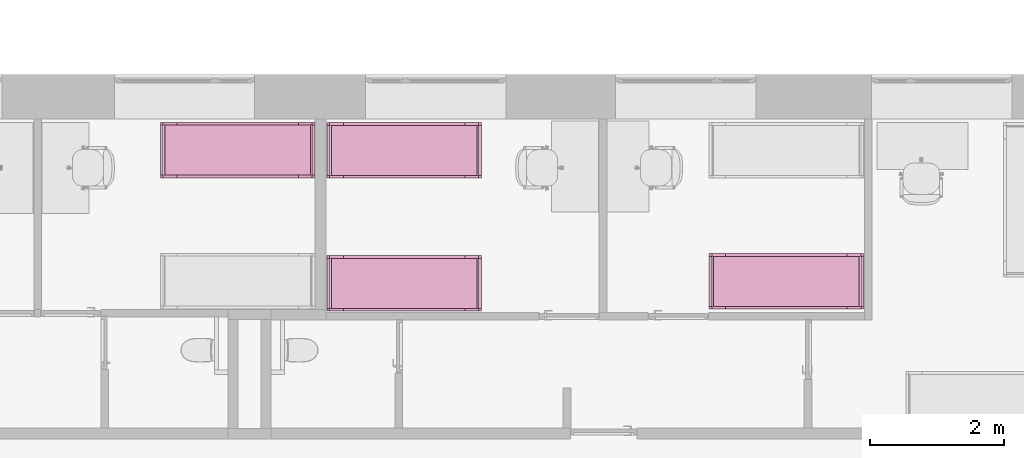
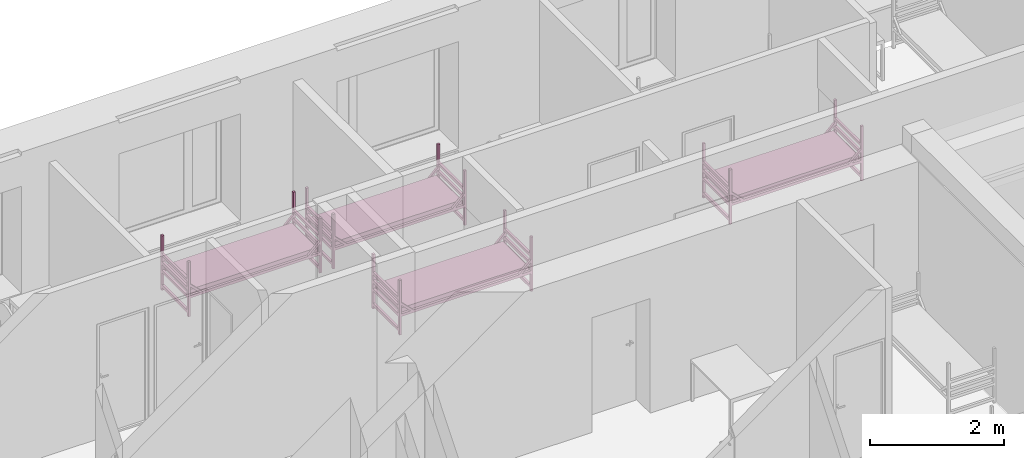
# One storey, part 41 of 48: 4 furnishings.
"""IFC2X3 building model written with IfcOpenShell, lengths in millimetres."""

from ifc_helpers import new_model, entity, si_unit, converted_unit, derived_unit, direction, frame, frame_2d, origin, origin_2d_with_axis, place, context, subcontext, project, spatial, polyline, circle_curve, parameter, trimmed, segment, composite_curve, rectangle, outline, extrude, source, transform, mapped, material, type_object, type_shapes, element, save


model = new_model("IFC2X3")

# Units and contexts
model_context = context("Model", 3, precision=0.01, world=origin(), true_north=direction((6.12303176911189e-17, 1.0)))
body_context = subcontext(model_context, "Body", "Model", "MODEL_VIEW")
ifc_project = project(units=[si_unit("LENGTHUNIT", "METRE", prefix="MILLI"), si_unit("AREAUNIT", "SQUARE_METRE"), si_unit("VOLUMEUNIT", "CUBIC_METRE"), converted_unit("PLANEANGLEUNIT", "DEGREE", entity("IfcRatioMeasure", 0.0174532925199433), si_unit("PLANEANGLEUNIT", "RADIAN"), dimensions=[0, 0, 0, 0, 0, 0, 0]), si_unit("MASSUNIT", "GRAM", prefix="KILO"), derived_unit("MASSDENSITYUNIT", [(si_unit("MASSUNIT", "GRAM", prefix="KILO"), 1), (si_unit("LENGTHUNIT", "METRE"), -3)]), si_unit("TIMEUNIT", "SECOND"), si_unit("FREQUENCYUNIT", "HERTZ"), si_unit("THERMODYNAMICTEMPERATUREUNIT", "DEGREE_CELSIUS"), derived_unit("THERMALTRANSMITTANCEUNIT", [(si_unit("MASSUNIT", "GRAM", prefix="KILO"), 1), (si_unit("THERMODYNAMICTEMPERATUREUNIT", "KELVIN"), -1), (si_unit("TIMEUNIT", "SECOND"), -3)]), derived_unit("VOLUMETRICFLOWRATEUNIT", [(si_unit("LENGTHUNIT", "METRE"), 3), (si_unit("TIMEUNIT", "SECOND"), -1)]), si_unit("ELECTRICCURRENTUNIT", "AMPERE"), si_unit("ELECTRICVOLTAGEUNIT", "VOLT"), si_unit("POWERUNIT", "WATT"), si_unit("FORCEUNIT", "NEWTON", prefix="KILO"), si_unit("ILLUMINANCEUNIT", "LUX"), si_unit("LUMINOUSFLUXUNIT", "LUMEN"), si_unit("LUMINOUSINTENSITYUNIT", "CANDELA"), derived_unit("USERDEFINED", [(si_unit("MASSUNIT", "GRAM", prefix="KILO"), -1), (si_unit("LENGTHUNIT", "METRE"), -2), (si_unit("TIMEUNIT", "SECOND"), 3), (si_unit("LUMINOUSFLUXUNIT", "LUMEN"), 1)]), derived_unit("LINEARVELOCITYUNIT", [(si_unit("LENGTHUNIT", "METRE"), 1), (si_unit("TIMEUNIT", "SECOND"), -1)]), si_unit("PRESSUREUNIT", "PASCAL"), derived_unit("USERDEFINED", [(si_unit("LENGTHUNIT", "METRE"), -2), (si_unit("MASSUNIT", "GRAM", prefix="KILO"), 1), (si_unit("TIMEUNIT", "SECOND"), -2)]), derived_unit("LINEARFORCEUNIT", [(si_unit("MASSUNIT", "GRAM", prefix="KILO"), 1), (si_unit("LENGTHUNIT", "METRE"), 1), (si_unit("TIMEUNIT", "SECOND"), -2), (si_unit("LENGTHUNIT", "METRE"), -1)]), derived_unit("PLANARFORCEUNIT", [(si_unit("MASSUNIT", "GRAM", prefix="KILO"), 1), (si_unit("LENGTHUNIT", "METRE"), 1), (si_unit("TIMEUNIT", "SECOND"), -2), (si_unit("LENGTHUNIT", "METRE"), -2)])], contexts=[model_context])

# Site, building, storey, space
site_placement = place(None, origin())
site = spatial("IfcSite", under=ifc_project, at=site_placement, Name="Default", CompositionType="ELEMENT")
building_placement = place(site_placement, origin())
building = spatial("IfcBuilding", under=site, at=building_placement, Name="SMA ARH", CompositionType="ELEMENT")
storey_placement = place(building_placement, frame((0.0, 0.0, 3300.0)))
storey = spatial("IfcBuildingStorey", under=building, at=storey_placement, Name="2 Korrus", CompositionType="ELEMENT", Elevation=3299.99999999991)
space_1_placement = place(storey_placement, origin())
space_1 = spatial("IfcSpace", under=storey, at=space_1_placement, Name="2-24", CompositionType="ELEMENT", InteriorOrExteriorSpace="INTERNAL")

# Furnishing
ifc_material = material(Name="Madrats")
furniture_type_1 = type_object("IfcFurnitureType", Name="Kasarmu voodi ühekordne 2308x830:Kasarmu voodi ühekordne 2308x830", material=ifc_material)
shared_shape_1 = source(origin(), body_context, "Body", "SweptSolid", [
    extrude(rectangle(XDim=39.9999999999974, YDim=750.000000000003, at=frame_2d((-1.35003119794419e-13, -2.8421709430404e-14), x_axis=(1.0, 0.0))), frame((1.68638457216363, -1226.7969571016, 55.0), z_axis=(0.0, 0.0, 1.0), x_axis=(0.0, -1.0, 0.0)), (0.0, 0.0, 1.0), 49.9999999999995),
    extrude(rectangle(XDim=39.9999999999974, YDim=750.000000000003, at=frame_2d((-1.35003119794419e-13, -2.8421709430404e-14), x_axis=(1.0, 0.0))), frame((1.68638457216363, -1226.7969571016, 325.0), z_axis=(0.0, 0.0, 1.0), x_axis=(0.0, -1.0, 0.0)), (0.0, 0.0, 1.0), 49.9999999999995),
    extrude(rectangle(XDim=39.9999999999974, YDim=750.000000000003, at=frame_2d((-1.35003119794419e-13, -2.8421709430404e-14), x_axis=(1.0, 0.0))), frame((1.68638457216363, -1226.7969571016, 475.0), z_axis=(0.0, 0.0, 1.0), x_axis=(0.0, -1.0, 0.0)), (0.0, 0.0, 1.0), 49.9999999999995),
    extrude(rectangle(XDim=39.9999999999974, YDim=750.000000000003, at=frame_2d((-1.35003119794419e-13, -2.8421709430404e-14), x_axis=(1.0, 0.0))), frame((1.68638457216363, -1226.7969571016, 625.0), z_axis=(0.0, 0.0, 1.0), x_axis=(0.0, -1.0, 0.0)), (0.0, 0.0, 1.0), 50.0000000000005),
    extrude(rectangle(XDim=39.9999999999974, YDim=750.000000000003, at=frame_2d((1.35003119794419e-13, -2.8421709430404e-14), x_axis=(1.0, 0.0))), frame((1.68638457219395, 1041.2030428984, 55.0), z_axis=(0.0, 0.0, 1.0), x_axis=(0.0, -1.0, 0.0)), (0.0, 0.0, 1.0), 50.0000000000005),
    extrude(rectangle(XDim=39.9999999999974, YDim=750.000000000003, at=frame_2d((1.35003119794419e-13, -2.8421709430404e-14), x_axis=(1.0, 0.0))), frame((1.68638457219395, 1041.2030428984, 325.0), z_axis=(0.0, 0.0, 1.0), x_axis=(0.0, -1.0, 0.0)), (0.0, 0.0, 1.0), 50.0000000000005),
    extrude(rectangle(XDim=39.9999999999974, YDim=750.000000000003, at=frame_2d((1.35003119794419e-13, -2.8421709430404e-14), x_axis=(1.0, 0.0))), frame((1.68638457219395, 1041.2030428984, 475.0), z_axis=(0.0, 0.0, 1.0), x_axis=(0.0, -1.0, 0.0)), (0.0, 0.0, 1.0), 50.0000000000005),
    extrude(rectangle(XDim=39.9999999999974, YDim=750.000000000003, at=frame_2d((1.35003119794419e-13, -2.8421709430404e-14), x_axis=(1.0, 0.0))), frame((1.68638457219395, 1041.2030428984, 625.0), z_axis=(0.0, 0.0, 1.0), x_axis=(0.0, -1.0, 0.0)), (0.0, 0.0, 1.0), 49.9999999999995),
    extrude(outline(composite_curve([segment(trimmed(circle_curve(frame_2d((1085.0, -40.0), x_axis=(1.0, 0.0)), 10.0), [parameter(270.0)], [parameter(0.0)], True, "PARAMETER"), True, "CONTINUOUS"), segment(polyline([(1095.0, -40.0), (1095.0, 40.0)]), True, "CONTINUOUS"), segment(trimmed(circle_curve(frame_2d((1085.0, 40.0), x_axis=(1.0, 0.0)), 10.0), [parameter(0.0)], [parameter(90.0000000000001)], True, "PARAMETER"), True, "CONTINUOUS"), segment(polyline([(1085.0, 50.0), (-1085.0, 50.0)]), True, "CONTINUOUS"), segment(trimmed(circle_curve(frame_2d((-1085.0, 40.0), x_axis=(1.0, 0.0)), 10.0), [parameter(90.0000000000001)], [parameter(180.0)], True, "PARAMETER"), True, "CONTINUOUS"), segment(polyline([(-1095.0, 40.0), (-1095.0, -40.0)]), True, "CONTINUOUS"), segment(trimmed(circle_curve(frame_2d((-1085.0, -40.0), x_axis=(1.0, 0.0)), 10.0), [parameter(180.0)], [parameter(270.0)], True, "PARAMETER"), True, "CONTINUOUS"), segment(polyline([(-1085.0, -50.0), (1085.0, -50.0)]), True, "CONTINUOUS")], self_intersect=False)), frame((-373.313615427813, -92.7969571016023, 405.0), z_axis=(1.0, 0.0, 0.0), x_axis=(0.0, -1.0, 0.0)), (0.0, 0.0, 1.0), 750.000000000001),
    extrude(outline(polyline([(-1114.0, -100.0), (1114.0, -100.0), (1114.0, -50.0), (961.59199141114, -50.0), (1114.0, 100.0), (1114.0, 150.0), (910.789321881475, -50.0), (-910.789321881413, -50.0), (-1114.0, 150.0), (-1114.0, 100.0), (-961.591991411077, -50.0), (-1114.0, -50.0), (-1114.0, -100.0)])), frame((-413.313615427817, -92.7969571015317, 430.0), z_axis=(1.0, 0.0, 0.0), x_axis=(0.0, 1.0, 0.0)), (0.0, 0.0, 1.0), 39.9999999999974),
    extrude(outline(polyline([(-1114.0, -100.0), (1114.0, -100.0), (1114.0, -50.0), (961.591991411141, -50.0), (1114.0, 100.0), (1114.0, 150.0), (910.789321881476, -50.0), (-910.789321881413, -50.0), (-1114.0, 150.0), (-1114.0, 100.0), (-961.591991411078, -50.0), (-1114.0, -50.0), (-1114.0, -100.0)])), frame((376.686384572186, -92.796957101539, 430.0), z_axis=(1.0, 0.0, 0.0), x_axis=(0.0, 1.0, 0.0)), (0.0, 0.0, 1.0), 39.9999999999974),
    extrude(rectangle(XDim=39.9999999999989, YDim=39.9999999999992, at=frame_2d((-6.75015598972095e-14, 0.0), x_axis=(1.0, 0.0))), frame((396.686384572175, -1226.79695710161, 0.0), z_axis=(0.0, 0.0, 1.0), x_axis=(0.0, 1.0, 0.0)), (0.0, 0.0, 1.0), 995.0),
    extrude(rectangle(XDim=39.9999999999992, YDim=39.9999999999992, at=frame_2d((-1.35003119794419e-13, 0.0), x_axis=(1.0, 0.0))), frame((396.686384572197, 1041.20304289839, 0.0), z_axis=(0.0, 0.0, 1.0), x_axis=(0.0, 1.0, 0.0)), (0.0, 0.0, 1.0), 995.0),
    extrude(rectangle(XDim=40.0000000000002, YDim=39.9999999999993, at=frame_2d((-1.35003119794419e-13, 0.0), x_axis=(1.0, 0.0))), frame((-393.313615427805, 1041.2030428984, 0.0), z_axis=(0.0, 0.0, 1.0), x_axis=(0.0, 1.0, 0.0)), (0.0, 0.0, 1.0), 995.0),
    extrude(rectangle(XDim=39.9999999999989, YDim=39.9999999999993, at=frame_2d((-6.75015598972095e-14, 0.0), x_axis=(1.0, 0.0))), frame((-393.313615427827, -1226.7969571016, 0.0), z_axis=(0.0, 0.0, 1.0), x_axis=(0.0, 1.0, 0.0)), (0.0, 0.0, 1.0), 995.0),
])
type_shapes(furniture_type_1, [shared_shape_1])
furnishing_1_placement = place(space_1_placement, frame((22143.2030428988, 12035.0, 0.0), z_axis=(0.0, 0.0, 1.0), x_axis=(0.0, 1.0, 0.0)))
element("IfcFurnishingElement", 1, at=furnishing_1_placement, inside=space_1, type_object=furniture_type_1, material=ifc_material, Name="Kasarmu voodi ühekordne 2308x830:Kasarmu voodi ühekordne 2308x830", ObjectType="Kasarmu voodi ühekordne 2308x830:Kasarmu voodi ühekordne 2308x830", context=body_context, shape_type="MappedRepresentation", body=[
    mapped(shared_shape_1, transform((0.0, 0.0, 0.0), scale=1.0)),
])

# Space
space_2_placement = place(storey_placement, origin())
space_2 = spatial("IfcSpace", under=storey, at=space_2_placement, Name="2-30", CompositionType="ELEMENT", InteriorOrExteriorSpace="INTERNAL")

# Furnishing
furnishing_2_placement = place(space_2_placement, frame((30348.2030428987, 10071.3136154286, 0.0), z_axis=(0.0, 0.0, 1.0), x_axis=(0.0, 1.0, 0.0)))
element("IfcFurnishingElement", 2, at=furnishing_2_placement, inside=space_2, type_object=furniture_type_1, material=ifc_material, Name="Kasarmu voodi ühekordne 2308x830:Kasarmu voodi ühekordne 2308x830", ObjectType="Kasarmu voodi ühekordne 2308x830:Kasarmu voodi ühekordne 2308x830", context=body_context, shape_type="MappedRepresentation", body=[
    mapped(shared_shape_1, transform((0.0, 0.0, 0.0), scale=1.0)),
])

# Space
space_3_placement = place(storey_placement, origin())
space_3 = spatial("IfcSpace", under=storey, at=space_3_placement, Name="2-29", CompositionType="ELEMENT", InteriorOrExteriorSpace="INTERNAL")

# Furnishings
furniture_type_2 = type_object("IfcFurnitureType", Name="Kasarmu voodi ühekordne 2308x830:Kasarmu voodi ühekordne 2308x830", material=ifc_material)
shared_shape_2 = source(origin(), body_context, "Body", "SweptSolid", [
    extrude(rectangle(XDim=750.000000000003, YDim=39.9999999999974, at=frame_2d((0.0, 1.35003119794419e-13), x_axis=(1.0, 0.0))), frame((1.68638457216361, 1226.7969571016, 55.0)), (0.0, 0.0, 1.0), 49.9999999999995),
    extrude(rectangle(XDim=750.000000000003, YDim=39.9999999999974, at=frame_2d((0.0, 1.35003119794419e-13), x_axis=(1.0, 0.0))), frame((1.68638457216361, 1226.7969571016, 325.0)), (0.0, 0.0, 1.0), 49.9999999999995),
    extrude(rectangle(XDim=750.000000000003, YDim=39.9999999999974, at=frame_2d((0.0, 1.35003119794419e-13), x_axis=(1.0, 0.0))), frame((1.68638457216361, 1226.7969571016, 475.0)), (0.0, 0.0, 1.0), 49.9999999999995),
    extrude(rectangle(XDim=750.000000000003, YDim=39.9999999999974, at=frame_2d((0.0, 1.35003119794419e-13), x_axis=(1.0, 0.0))), frame((1.68638457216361, 1226.7969571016, 625.0)), (0.0, 0.0, 1.0), 50.0000000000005),
    extrude(rectangle(XDim=750.000000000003, YDim=39.9999999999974, at=origin_2d_with_axis()), frame((1.68638457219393, -1041.2030428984, 55.0)), (0.0, 0.0, 1.0), 50.0000000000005),
    extrude(rectangle(XDim=750.000000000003, YDim=39.9999999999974, at=origin_2d_with_axis()), frame((1.68638457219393, -1041.2030428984, 325.0)), (0.0, 0.0, 1.0), 50.0000000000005),
    extrude(rectangle(XDim=750.000000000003, YDim=39.9999999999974, at=origin_2d_with_axis()), frame((1.68638457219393, -1041.2030428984, 475.0)), (0.0, 0.0, 1.0), 50.0000000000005),
    extrude(rectangle(XDim=750.000000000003, YDim=39.9999999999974, at=origin_2d_with_axis()), frame((1.68638457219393, -1041.2030428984, 625.0)), (0.0, 0.0, 1.0), 49.9999999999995),
    extrude(outline(composite_curve([segment(polyline([(-1085.0, -50.0), (1085.0, -50.0)]), True, "CONTINUOUS"), segment(trimmed(circle_curve(frame_2d((1085.0, -40.0), x_axis=(-1.0, 0.0)), 10.0), [parameter(90.0000000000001)], [parameter(180.0)], True, "PARAMETER"), True, "CONTINUOUS"), segment(polyline([(1095.0, -40.0), (1095.0, 40.0)]), True, "CONTINUOUS"), segment(trimmed(circle_curve(frame_2d((1085.0, 40.0), x_axis=(-1.0, 0.0)), 10.0), [parameter(180.0)], [parameter(270.0)], True, "PARAMETER"), True, "CONTINUOUS"), segment(polyline([(1085.0, 50.0), (-1085.0, 50.0)]), True, "CONTINUOUS"), segment(trimmed(circle_curve(frame_2d((-1085.0, 40.0), x_axis=(-1.0, 0.0)), 10.0), [parameter(270.0)], [parameter(0.0)], True, "PARAMETER"), True, "CONTINUOUS"), segment(polyline([(-1095.0, 40.0), (-1095.0, -40.0)]), True, "CONTINUOUS"), segment(trimmed(circle_curve(frame_2d((-1085.0, -40.0), x_axis=(-1.0, 0.0)), 10.0), [parameter(0.0)], [parameter(90.0000000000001)], True, "PARAMETER"), True, "CONTINUOUS")], self_intersect=False)), frame((-373.313615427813, 92.7969571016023, 405.0), z_axis=(1.0, 0.0, 0.0), x_axis=(0.0, -1.0, 0.0)), (0.0, 0.0, 1.0), 750.000000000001),
    extrude(outline(polyline([(-100.0, -1114.0), (-50.0, -1114.0), (-50.0, -961.591991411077), (100.0, -1114.0), (150.0, -1114.0), (-50.0, -910.789321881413), (-50.0, 910.789321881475), (150.0, 1114.0), (100.0, 1114.0), (-50.0, 961.591991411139), (-50.0, 1114.0), (-100.0, 1114.0), (-100.0, -1114.0)])), frame((-413.313615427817, 92.7969571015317, 430.0), z_axis=(1.0, 0.0, 0.0), x_axis=(0.0, 0.0, 1.0)), (0.0, 0.0, 1.0), 39.9999999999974),
    extrude(outline(polyline([(-100.0, -1114.0), (-50.0, -1114.0), (-50.0, -961.591991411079), (100.0, -1114.0), (150.0, -1114.0), (-50.0, -910.789321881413), (-50.0, 910.789321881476), (150.0, 1114.0), (100.0, 1114.0), (-50.0, 961.591991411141), (-50.0, 1114.0), (-100.0, 1114.0), (-100.0, -1114.0)])), frame((376.686384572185, 92.796957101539, 430.0), z_axis=(1.0, 0.0, 0.0), x_axis=(0.0, 0.0, 1.0)), (0.0, 0.0, 1.0), 39.9999999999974),
    extrude(rectangle(XDim=39.9999999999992, YDim=39.9999999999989, at=frame_2d((0.0, -6.75015598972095e-14), x_axis=(1.0, 0.0))), frame((396.686384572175, 1226.79695710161, 0.0), z_axis=(0.0, 0.0, 1.0), x_axis=(-1.0, 0.0, 0.0)), (0.0, 0.0, 1.0), 995.0),
    extrude(rectangle(XDim=39.9999999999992, YDim=39.9999999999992, at=origin_2d_with_axis()), frame((396.686384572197, -1041.20304289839, 0.0), z_axis=(0.0, 0.0, 1.0), x_axis=(-1.0, 0.0, 0.0)), (0.0, 0.0, 1.0), 995.0),
    extrude(rectangle(XDim=39.9999999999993, YDim=40.0000000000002, at=origin_2d_with_axis()), frame((-393.313615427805, -1041.2030428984, 0.0), z_axis=(0.0, 0.0, 1.0), x_axis=(-1.0, 0.0, 0.0)), (0.0, 0.0, 1.0), 995.0),
    extrude(rectangle(XDim=39.9999999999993, YDim=39.9999999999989, at=frame_2d((0.0, -6.75015598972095e-14), x_axis=(1.0, 0.0))), frame((-393.313615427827, 1226.7969571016, 0.0), z_axis=(0.0, 0.0, 1.0), x_axis=(-1.0, 0.0, 0.0)), (0.0, 0.0, 1.0), 995.0),
])
type_shapes(furniture_type_2, [shared_shape_2])
for number, where, z_axis, x_axis, name in (
    (3, (24818.796957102, 10041.3136154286, 0.0), (0.0, 0.0, 1.0), (0.0, 1.0, 0.0), "Kasarmu voodi ühekordne 2308x830:Kasarmu voodi ühekordne 2308x830"),
    (4, (24818.796957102, 12030.0, 0.0), (0.0, 0.0, 1.0), (0.0, 1.0, 0.0), "Kasarmu voodi ühekordne 2308x830:Kasarmu voodi ühekordne 2308x830"),
):
    element("IfcFurnishingElement", number, at=place(space_3_placement, frame(where, z_axis=z_axis, x_axis=x_axis)), inside=space_3, type_object=furniture_type_2, material=ifc_material, Name=name, ObjectType="Kasarmu voodi ühekordne 2308x830:Kasarmu voodi ühekordne 2308x830", context=body_context, shape_type="MappedRepresentation", body=[
        mapped(shared_shape_2, transform((0.0, 0.0, 0.0), scale=1.0)),
    ])

save(model, "model.ifc")
